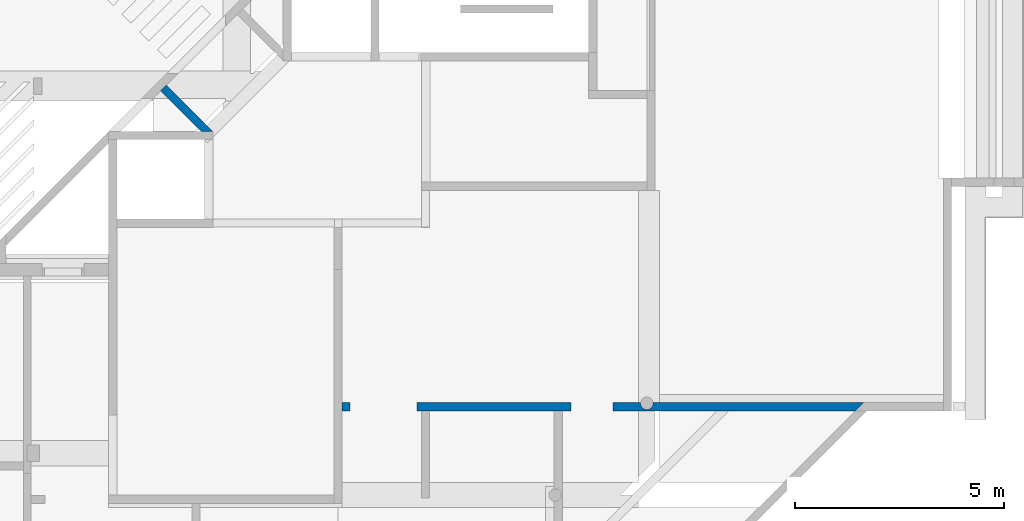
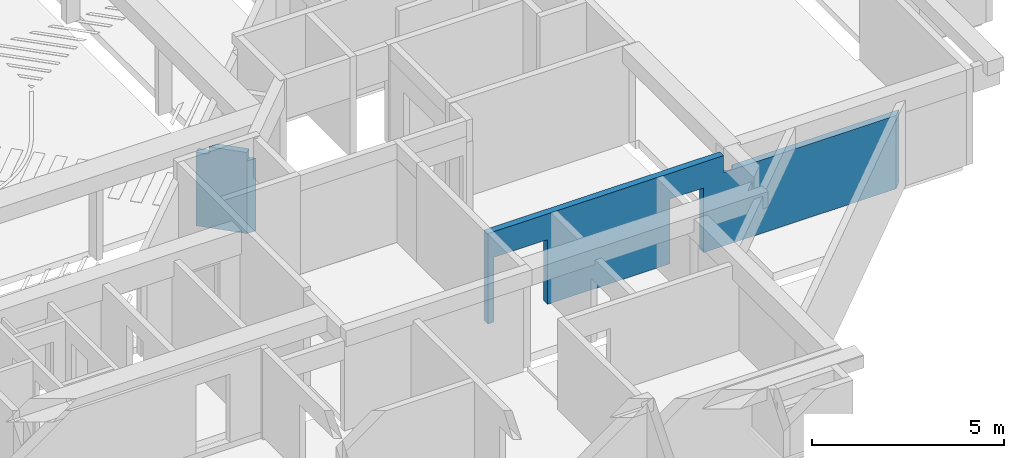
# One storey, part 17 of 22: 2 walls.
"""IFC4X3_ADD2 building model written with IfcOpenShell, lengths in millimetres."""

from ifc_helpers import new_model, si_unit, direction, frame, origin_with_axes, place, context, subcontext, project, spatial, polygons, element, save


model = new_model("IFC4X3_ADD2")

# Units and contexts
model_context = context("Model", 3, precision=1e-05, world=origin_with_axes(), true_north=direction((0.0, 1.0)))
body_context = subcontext(model_context, "Body", "Model", "MODEL_VIEW")
ifc_project = project(units=[si_unit("LENGTHUNIT", "METRE", prefix="MILLI"), si_unit("AREAUNIT", "SQUARE_METRE"), si_unit("VOLUMEUNIT", "CUBIC_METRE"), si_unit("PLANEANGLEUNIT", "RADIAN"), si_unit("TIMEUNIT", "SECOND"), si_unit("MASSUNIT", "GRAM")], contexts=[model_context])

# Site, building, storey
site_placement = place(None, origin_with_axes())
site = spatial("IfcSite", under=ifc_project, at=site_placement, Name="Site", CompositionType="ELEMENT")
building_placement = place(site_placement, origin_with_axes())
building = spatial("IfcBuilding", under=site, at=building_placement, Name="IFC Building Story")
storey_placement = place(building_placement, frame((0.0, 0.0, -3240.0), z_axis=(0.0, 0.0, 1.0), x_axis=(1.0, 0.0, 0.0)))
storey = spatial("IfcBuildingStorey", under=building, at=storey_placement, Name="K10", Elevation=-3240.0)

# Walls
wall_1_placement = place(storey_placement, frame((0.0, 0.0, 3240.0), z_axis=(0.0, 0.0, 1.0), x_axis=(1.0, 0.0, 0.0)))
element("IfcWall", 1, at=wall_1_placement, inside=storey, Name="Basic Wall:BB_XX_Wand uit metselwerk, 200 mm", ObjectType="Basic Wall:BB_XX_Wand uit metselwerk, 200 mm", PredefinedType="SOLIDWALL", context=body_context, shape_type="Tessellation", body=[
    polygons([(-7349.23971440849, 9415.0, -2705.444408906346), (-7349.80106842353, 9407.639330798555, -2677.619021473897), (-7349.78030801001, 9408.032019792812, -2735.836305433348), (-7349.9999999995, 9399.916643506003, -1606.02772722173), (-7349.81996925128, 9407.263534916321, -1667.8169877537), (-7349.76764691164, 9408.262417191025, -1607.43792381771), (-7349.9999999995, 9399.916643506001, -3093.750030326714), (-7349.87719205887, 9405.985193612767, -3050.800668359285), (-7349.9999999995, 9399.916643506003, -3020.624802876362), (-7349.9999999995, 9399.916643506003, -1006.91112728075), (-7349.81243815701, 9407.415534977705, -1046.75972240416), (-7349.82764306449, 9407.10534113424, -980.1833838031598), (-7349.9999999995, 9399.916643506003, -2216.24972705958), (-7349.84006013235, 9406.841697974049, -2179.68749938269), (-7349.9999999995, 9399.916643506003, -2143.12449960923), (-7349.82102118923, 9407.242052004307, -2381.393021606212), (-7349.23971440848, 9414.999999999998, -2384.710780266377), (-7349.81566438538, 9407.350801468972, -2325.93749950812), (-7349.80980802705, 9407.467896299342, -3159.816615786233), (-7349.23971440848, 9415.0, -3133.089247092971), (-7349.77717105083, 9408.089710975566, -3101.311619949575), (-7349.80477956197, 9407.567004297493, -1102.39420878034), (-7349.23971440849, 9415.000000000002, -1178.38304298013), (-7349.23971440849, 9415.0, -1085.5888475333), (-7349.23971440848, 9414.999999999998, -2438.166385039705), (-7349.23971440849, 9415.0, -1363.97234715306), (-7349.23971440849, 9415.0, -1317.57502110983), (-7349.79758044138, 9407.706694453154, -1340.77344968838), (-7349.23971440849, 9414.999999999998, -1827.94423766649), (-7349.23971440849, 9415.000000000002, -1781.54736826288), (-7349.79758044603, 9407.706694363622, -1804.74550230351), (-7349.82893643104, 9407.078333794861, -1725.19887758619), (-7349.23971440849, 9415.000000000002, -1735.15004221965), (-7349.23971440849, 9415.000000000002, -2758.900013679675), (-7349.80722219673, 9407.519023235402, -2068.85381557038), (-7349.81402689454, 9407.383727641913, -2122.97429932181), (-7349.23971440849, 9415.0, -2106.32773728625), (-7349.79063750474, 9407.839074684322, -1954.00698598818), (-7349.9999999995, 9399.916643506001, -1977.20535135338), (-7349.84991202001, 9406.625135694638, -2013.13526562), (-7349.9999999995, 9399.916643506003, -1513.23332118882), (-7349.84991201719, 9406.625135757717, -1549.16321263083), (-7349.7906375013, 9407.83907474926, -1490.03493304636), (-7349.23971440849, 9415.0, -992.7946520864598), (-7349.23971440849, 9415.0, -900.0), (-7349.9999999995, 9399.916643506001, -2362.499696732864), (-7349.23971440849, 9415.0, -2013.53308519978), (-7349.23971440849, 9415.0, -1920.73843311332), (-7349.23971440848, 9415.0, -1549.56073804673), (-7349.23971440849, 9415.000000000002, -1456.76654259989), (-7349.9999999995, 9399.916643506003, -1327.644509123), (-7349.9999999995, 9399.916643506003, -1420.43891515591), (-7349.9999999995, 9399.916643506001, -1466.83587555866), (-7349.76971913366, 9408.225147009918, -1402.47818537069), (-7349.9999999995, 9399.916643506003, -1791.61653928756), (-7349.9999999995, 9399.916643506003, -1884.41094532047), (-7349.9999999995, 9399.916643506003, -1930.80839095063), (-7349.76971913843, 9408.225146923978, -1866.45023809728), (-7349.23971440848, 9414.999999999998, -2291.916128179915), (-7349.76506537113, 9408.30861551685, -2245.285222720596), (-7349.80980802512, 9407.467896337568, -3240.0), (-7349.23971440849, 9415.0, -3240.0), (-7349.23971440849, 9415.0, -3186.544395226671), (-7349.23971440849, 9414.999999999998, -2598.53319935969), (-7349.7814917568, 9408.010142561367, -2524.435374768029), (-7349.83950130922, 9406.853778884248, -2618.437499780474), (-7349.83179690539, 9407.01823740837, -2837.812499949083), (-7349.9999999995, 9399.916643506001, -2874.374833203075), (-7349.80726194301, 9407.518239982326, -2895.961788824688), (-7349.7495641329, 9408.58082505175, -2947.645275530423), (-7349.80095489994, 9407.641532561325, -2999.449847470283), (-7349.23971440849, 9415.000000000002, -2972.722432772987), (-7349.9999999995, 9399.916643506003, -3186.544436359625), (-7349.9999999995, 9399.916643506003, -3240.0), (-7349.80980802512, 9407.467896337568, -900.0), (-7349.9999999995, 9399.916643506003, -900.0), (-7349.9999999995, 9399.916643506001, -953.4555636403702), (-7349.9999999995, 9399.916643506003, -1167.27781820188), (-7349.9999999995, 9399.916643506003, -1220.73338184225), (-7349.82496931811, 9407.160852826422, -1194.00574120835), (-7349.9999999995, 9399.916643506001, -1060.36669092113), (-7349.23971440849, 9414.999999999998, -3079.633642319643), (-7349.23971440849, 9415.0, -3026.178037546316), (-7349.9999999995, 9399.916643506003, -2801.249605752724), (-7349.9999999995, 9399.916643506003, -2947.49957542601), (-7349.9999999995, 9399.916643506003, -2654.999636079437), (-7349.83565662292, 9406.936330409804, -1254.02584418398), (-7349.23971440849, 9415.0, -1271.17769506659), (-7349.9999999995, 9399.916643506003, -1113.8222545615), (-7349.9999999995, 9399.916643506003, -1274.18894548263), (-7349.23971440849, 9414.999999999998, -1642.35539013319), (-7349.9999999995, 9399.916643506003, -2069.99975738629), (-7349.9999999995, 9399.916643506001, -1698.82213325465), (-7349.9999999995, 9399.916643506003, -1755.28902748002), (-7349.23971440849, 9415.000000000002, -2199.12193273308), (-7349.9999999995, 9399.916643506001, -2289.37495450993), (-7349.23971440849, 9415.0, -2059.93041124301), (-7349.9999999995, 9399.916643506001, -2435.624438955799), (-7349.81446159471, 9407.375001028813, -2464.893952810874), (-7349.23971440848, 9414.999999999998, -2491.621989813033), (-7349.9999999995, 9399.916643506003, -2508.749666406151), (-7349.9999999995, 9399.916643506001, -2384.710972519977), (-7349.23971440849, 9415.0, -2545.077594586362), (-7349.9999999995, 9399.916643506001, -2581.874893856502), (-7349.23971440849, 9415.0, -2651.988804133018), (-7349.9999999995, 9399.916643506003, -2728.124378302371), (-7349.74550936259, 9408.650624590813, -2787.392437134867), (-7349.23971440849, 9414.999999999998, -2812.355618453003), (-7349.23971440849, 9415.0, -2865.811223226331), (-7349.23971440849, 9415.0, -2919.266827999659), (-9014.99999999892, 9215.0, -3240.0), (-12702.46970198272, 9215.0, -3240.0), (-12702.46970198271, 9415.0, -3240.0), (-9014.99999999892, 9415.0, -3240.0), (-8004.99999999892, 9215.0, -3240.0), (-8004.99999999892, 9415.0, -3240.0), (-7344.88887394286, 9361.093786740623, -3240.0), (-7329.90381056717, 9324.916643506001, -3240.0), (-7306.06601717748, 9293.85062632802, -3240.0), (-7274.9999999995, 9270.012832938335, -3240.0), (-7238.82285676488, 9255.027769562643, -3240.0), (-7199.9999999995, 9249.916643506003, -3240.0), (-7161.17714323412, 9255.027769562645, -3240.0), (-7124.9999999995, 9270.012832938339, -3240.0), (-7093.93398282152, 9293.850626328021, -3240.0), (-7070.09618943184, 9324.916643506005, -3240.0), (-7055.11112605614, 9361.093786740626, -3240.0), (-7049.9999999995, 9399.916643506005, -3240.0), (-7050.19019197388, 9407.46789633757, -3240.0), (-7050.76028559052, 9415.0, -3240.0), (-2008.8311754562, 9415.0, -3240.0), (-2208.8311754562, 9215.0, -3240.0), (-14312.46970198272, 9215.0, -3240.0), (-14500.0, 9215.0, -3240.0), (-14500.0, 9415.0, -3240.0), (-14312.46970198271, 9415.0, -3240.0), (-14312.46970198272, 9215.0, -1180.0), (-14312.46970198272, 9415.0, -1180.0), (-12702.46970198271, 9415.0, -1180.0), (-12702.46970198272, 9215.0, -1180.0), (-8004.99999999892, 9415.0, -1180.0), (-8004.99999999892, 9215.0, -1180.0), (-9014.99999999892, 9215.0, -1180.0), (-9014.99999999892, 9415.0, -1180.0), (-14500.0, 9415.0, -360.0), (-7399.99999999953, 9415.0, -360.0), (-7399.99999999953, 9415.0, -900.0), (-2008.8311754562, 9415.0, -900.0), (-7050.76028559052, 9415.000000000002, -3186.544425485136), (-7050.76028559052, 9415.000000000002, -3093.749984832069), (-7050.76028559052, 9415.000000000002, -3020.624977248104), (-7050.76028559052, 9415.000000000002, -2947.499969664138), (-7050.76028559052, 9415.000000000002, -2874.374962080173), (-7050.76028559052, 9415.000000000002, -2801.249954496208), (-7050.76028559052, 9415.000000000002, -2728.124995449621), (-7050.76028559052, 9415.0, -2654.999987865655), (-7050.76028559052, 9415.000000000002, -2581.87498028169), (-7050.76028559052, 9415.000000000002, -2508.750021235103), (-7050.76028559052, 9415.0, -2435.625013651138), (-7050.76028559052, 9415.0, -2362.500006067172), (-7050.76028559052, 9415.000000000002, -2289.374998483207), (-7050.76028559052, 9415.0, -2216.24999089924), (-7050.76028559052, 9415.0, -2143.12498331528), (-7050.76028559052, 9415.0, -2069.99997573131), (-7050.76028559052, 9415.0, -1996.87496814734), (-7050.76028559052, 9415.0, -1923.74996056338), (-7050.76028559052, 9415.0, -1850.62500151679), (-7050.76028559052, 9415.0, -1777.49999393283), (-7050.76028559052, 9415.000000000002, -1704.37498634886), (-7050.76028559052, 9415.0, -1631.25002730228), (-7050.76028559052, 9415.0, -1558.12501971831), (-7050.76028559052, 9414.999999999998, -1485.00001213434), (-7050.76028559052, 9415.0, -1392.20557148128), (-7050.76028559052, 9415.0, -1345.80839969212), (-7050.76028559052, 9415.0, -1299.41117936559), (-7050.76028559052, 9415.0, -1206.6167872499), (-7050.76028559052, 9415.0, -1160.21956692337), (-7050.76028559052, 9415.0, -1113.82234659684), (-7050.76028559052, 9415.000000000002, -1060.36677208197), (-7050.76028559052, 9415.0, -1006.91119756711), (-7050.76028559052, 9415.0, -953.4556230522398), (-7050.76028559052, 9415.0, -900.0), (-2208.8311754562, 9215.0, -900.0), (-7399.99999999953, 9215.0, -900.0), (-7399.99999999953, 9215.0, -360.0), (-14500.0, 9215.0, -360.0), (-7344.88887394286, 9361.093786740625, -900.0), (-7050.19019197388, 9407.46789633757, -900.0), (-7049.9999999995, 9399.916643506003, -900.0), (-7055.11112605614, 9361.093786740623, -900.0), (-7070.09618943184, 9324.916643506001, -900.0), (-7093.93398282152, 9293.85062632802, -900.0), (-7124.9999999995, 9270.012832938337, -900.0), (-7161.17714323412, 9255.027769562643, -900.0), (-7199.9999999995, 9249.916643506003, -900.0), (-7238.82285676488, 9255.027769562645, -900.0), (-7274.9999999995, 9270.012832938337, -900.0), (-7306.06601717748, 9293.850626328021, -900.0), (-7329.90381056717, 9324.916643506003, -900.0), (-7338.58192987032, 9342.514128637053, -2685.157707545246), (-7342.60548147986, 9353.401305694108, -2070.00000018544), (-7319.00300101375, 9308.602429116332, -2069.99999991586), (-7319.0030010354, 9308.602429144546, -2701.368878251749), (-7319.0030010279, 9308.602429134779, -1438.63112165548), (-7299.51893460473, 9287.684822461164, -2069.99999999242), (-7291.31421432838, 9280.91364244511, -1624.10663466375), (-7257.40251483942, 9261.33471362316, -2070.00000003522), (-7257.40251484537, 9261.334713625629, -2701.368878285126), (-7108.68578563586, 9280.913642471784, -1624.10663458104), (-7080.9969989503, 9308.602429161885, -2070.00000002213), (-7117.34978116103, 9274.741001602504, -2069.99999994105), (-7108.68578564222, 9280.913642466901, -2515.893365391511), (-7080.99699895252, 9308.602429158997, -2701.368878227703), (-7291.31421433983, 9280.913642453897, -2515.893365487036), (-7230.07001502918, 9252.961568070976, -2070.00000003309), (-7219.57892882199, 9251.199914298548, -2515.893365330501), (-7347.77133902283, 9374.155599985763, -2731.53551578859), (-7347.77133902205, 9374.15559998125, -1408.46448424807), (-7338.58192986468, 9342.514128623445, -1454.84229273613), (-7057.39451850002, 9353.401305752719, -2069.99999994), (-7049.9999999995, 9399.916643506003, -1755.28942592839), (-7049.9999999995, 9399.916643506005, -1848.08385030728), (-7049.9999999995, 9399.916643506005, -1940.87826028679), (-7049.9999999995, 9399.916643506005, -2033.67267026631), (-7049.9999999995, 9399.916643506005, -2126.46708024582), (-7049.9999999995, 9399.916643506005, -2219.26149022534), (-7049.9999999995, 9399.916643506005, -2312.055900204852), (-7049.9999999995, 9399.916643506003, -2384.710574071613), (-7142.59748513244, 9261.334713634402, -1438.63112178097), (-7257.4025148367, 9261.334713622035, -1438.63112175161), (-7219.57892881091, 9251.199914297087, -1624.10663486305), (-7142.59748513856, 9261.334713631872, -2701.368878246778), (-7180.42107115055, 9251.199914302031, -1486.81960839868), (-7061.41807011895, 9342.514128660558, -1454.84229269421), (-7061.41807012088, 9342.514128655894, -2685.15770721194), (-7080.99699894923, 9308.602429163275, -1438.63112179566), (-7052.22866097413, 9374.15559999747, -2731.535516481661), (-7049.9999999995, 9399.916643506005, -2404.850310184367), (-7049.9999999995, 9399.916643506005, -2497.644720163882), (-7049.9999999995, 9399.916643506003, -2590.439130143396), (-7049.9999999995, 9399.916643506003, -2683.233540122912), (-7049.9999999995, 9399.916643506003, -2729.630745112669), (-7049.9999999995, 9399.916643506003, -2776.027950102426), (-7049.9999999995, 9399.916643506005, -2868.822360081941), (-7049.9999999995, 9399.916643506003, -2961.616770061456), (-7049.9999999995, 9399.916643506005, -3054.41118004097), (-7049.9999999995, 9399.916643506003, -3133.08881995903), (-7049.9999999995, 9399.916643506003, -3186.544409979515), (-7052.22866097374, 9374.15559999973, -1408.46448347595), (-7049.9999999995, 9399.916643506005, -953.45559002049), (-7049.9999999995, 9399.916643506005, -1006.91118004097), (-7049.9999999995, 9399.916643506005, -1060.36677006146), (-7049.9999999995, 9399.916643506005, -1113.82236008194), (-7049.9999999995, 9399.916643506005, -1167.27795010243), (-7049.9999999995, 9399.916643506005, -1220.73354012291), (-7049.9999999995, 9399.916643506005, -1274.1891301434), (-7049.9999999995, 9399.916643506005, -1327.64472016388), (-7049.9999999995, 9399.916643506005, -1381.10031018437), (-7049.9999999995, 9399.916643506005, -1434.55590020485), (-7049.9999999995, 9399.916643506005, -1488.01149022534), (-7049.9999999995, 9399.916643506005, -1541.46708024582), (-7049.9999999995, 9399.916643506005, -1594.92267026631), (-7049.9999999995, 9399.916643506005, -1648.37826028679), (-7049.9999999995, 9399.916643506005, -1701.83385030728), (-7180.42107115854, 9251.19991430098, -2653.18039160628), (-7193.61042419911, 9250.052794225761, -2070.00000024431), (-7142.59748513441, 9261.334713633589, -2070.00000002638), (-7167.60898065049, 9253.455652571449, -2236.09976927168), (-7050.1734727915, 9407.128560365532, -2150.39742240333), (-7050.22286808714, 9408.090428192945, -2201.4338944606), (-7050.20009571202, 9407.661879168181, -2489.81837918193), (-7050.23549446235, 9408.318600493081, -2399.062485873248), (-7050.19019197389, 9407.467896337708, -980.1833835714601), (-7050.1901919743, 9407.467896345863, -1047.59869372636), (-7050.19019197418, 9407.467896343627, -1102.52561341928), (-7050.19019197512, 9407.467896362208, -3159.816616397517), (-7050.20882058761, 9407.828822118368, -2618.437510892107), (-7050.19985459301, 9407.657214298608, -2674.252698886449), (-7050.21299373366, 9407.90743532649, -1255.79320488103), (-7050.17778111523, 9407.217515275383, -1200.09118198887), (-7050.19667824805, 9407.595497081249, -3040.410783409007), (-7050.19613982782, 9407.584986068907, -1814.06248335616), (-7050.20174557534, 9407.69372338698, -1758.60696306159), (-7050.18391750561, 9407.342370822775, -1887.18748203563), (-7050.16383875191, 9406.925550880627, -1615.56462252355), (-7050.22240219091, 9408.081886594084, -1521.56248865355), (-7050.20744084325, 9407.802657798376, -1322.60977478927), (-7050.1642784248, 9406.934943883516, -1403.74305719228), (-7050.1816485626, 9407.296451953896, -1462.38096944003), (-7050.20188896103, 9407.696484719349, -1942.53611498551), (-7050.16786754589, 9407.01115437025, -2545.31251176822), (-7050.17392544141, 9407.13795796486, -2093.75852249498), (-7050.19720331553, 9407.605733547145, -2252.812476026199), (-7050.20166214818, 9407.692116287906, -2308.287366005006), (-7050.17608801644, 9407.182687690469, -2910.937506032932), (-7050.23178332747, 9408.252186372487, -2861.726564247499), (-7050.21858947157, 9408.011645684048, -2984.062504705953), (-7050.16013651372, 9406.84595159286, -3101.311622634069), (-7050.19490311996, 9407.56078825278, -1675.10604116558), (-7050.19257285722, 9407.514983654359, -2752.829356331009), (-7050.15154410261, 9406.657583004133, -2813.242329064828), (-7050.23672037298, 9408.340423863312, -2033.43747948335), (-7050.14233948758, 9406.449758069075, -1151.19211064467)], [[[1, 2, 3]], [[4, 5, 6]], [[7, 8, 9]], [[10, 11, 12]], [[13, 14, 15]], [[16, 17, 18]], [[19, 20, 21]], [[22, 23, 24]], [[25, 17, 16]], [[26, 27, 28]], [[29, 30, 31]], [[5, 32, 33]], [[34, 1, 3]], [[35, 36, 37]], [[38, 39, 40]], [[41, 42, 43]], [[12, 44, 45]], [[18, 46, 16]], [[42, 4, 6]], [[38, 47, 48]], [[43, 49, 50]], [[51, 52, 53, 54]], [[55, 56, 57, 58]], [[59, 60, 18]], [[63, 20, 19]], [[19, 61, 62]], [[19, 62, 63]], [[60, 14, 13]], [[24, 11, 22]], [[64, 65, 66]], [[67, 68, 69]], [[70, 71, 72]], [[73, 74, 61]], [[73, 61, 19]], [[19, 7, 73]], [[75, 76, 77]], [[10, 12, 77]], [[11, 44, 12]], [[12, 45, 75]], [[7, 19, 21]], [[77, 12, 75]], [[24, 44, 11]], [[78, 79, 80]], [[11, 81, 22]], [[8, 71, 9]], [[21, 82, 8]], [[8, 82, 83]], [[67, 84, 68]], [[85, 70, 69]], [[38, 48, 58]], [[54, 43, 50]], [[21, 20, 82]], [[72, 71, 83]], [[9, 71, 85]], [[86, 2, 66]], [[80, 79, 87]], [[71, 8, 83]], [[21, 8, 7]], [[88, 80, 87]], [[42, 6, 49]], [[89, 78, 22, 81]], [[23, 22, 80]], [[78, 80, 22]], [[23, 80, 88]], [[88, 87, 27]], [[87, 90, 28]], [[87, 28, 27]], [[54, 28, 51]], [[31, 55, 58]], [[54, 26, 28]], [[58, 29, 31]], [[54, 50, 26]], [[58, 48, 29]], [[43, 54, 53]], [[38, 58, 57]], [[41, 43, 53]], [[39, 38, 57]], [[49, 43, 42]], [[47, 38, 40]], [[91, 49, 6]], [[42, 41, 4]], [[40, 39, 92]], [[51, 28, 90]], [[87, 79, 90]], [[11, 10, 81]], [[5, 91, 6]], [[91, 5, 33]], [[93, 5, 4]], [[30, 33, 32]], [[93, 32, 5]], [[32, 93, 94, 55]], [[32, 31, 30]], [[55, 31, 32]], [[14, 95, 36]], [[92, 36, 35]], [[36, 15, 14]], [[37, 36, 95]], [[95, 14, 60]], [[60, 59, 95]], [[36, 92, 15]], [[46, 18, 96]], [[60, 13, 96]], [[97, 47, 40]], [[97, 40, 35]], [[96, 18, 60]], [[59, 18, 17]], [[16, 98, 99]], [[25, 99, 100]], [[100, 99, 65]], [[65, 99, 101]], [[16, 46, 102, 98]], [[16, 99, 25]], [[99, 98, 101]], [[103, 100, 65, 64]], [[104, 66, 65]], [[86, 66, 104]], [[65, 101, 104]], [[2, 105, 66]], [[69, 68, 85]], [[106, 107, 3]], [[2, 106, 3]], [[2, 86, 106]], [[67, 108, 107]], [[64, 66, 105]], [[108, 34, 107]], [[2, 1, 105]], [[107, 106, 84]], [[69, 109, 67]], [[71, 70, 85]], [[110, 70, 72]], [[108, 67, 109]], [[69, 110, 109]], [[69, 70, 110]], [[67, 107, 84]], [[3, 107, 34]], [[92, 35, 40]], [[97, 35, 37]], [[111, 112, 113, 114]], [[129, 130, 131]], [[131, 132, 128]], [[131, 128, 129]], [[132, 127, 128]], [[132, 126, 127]], [[132, 125, 126]], [[132, 124, 125]], [[132, 123, 124]], [[132, 122, 123]], [[132, 115, 122]], [[115, 121, 122]], [[115, 120, 121]], [[115, 119, 120]], [[115, 118, 119]], [[115, 117, 118]], [[115, 116, 74]], [[115, 74, 117]], [[116, 61, 74]], [[116, 62, 61]], [[133, 134, 135, 136]], [[137, 138, 139, 140]], [[141, 142, 143, 144]], [[138, 136, 135]], [[138, 135, 145]], [[145, 139, 138]], [[139, 145, 144]], [[144, 114, 113]], [[144, 113, 139]], [[145, 146, 144]], [[146, 141, 144]], [[63, 62, 147]], [[147, 20, 63]], [[147, 82, 20]], [[147, 83, 82]], [[147, 72, 83]], [[147, 110, 72]], [[147, 109, 110]], [[147, 108, 109]], [[147, 34, 108]], [[147, 1, 34]], [[147, 105, 1]], [[147, 64, 105]], [[147, 103, 64]], [[147, 100, 103]], [[147, 25, 100]], [[147, 17, 25]], [[147, 59, 17]], [[147, 95, 59]], [[147, 37, 95]], [[147, 97, 37]], [[147, 47, 97]], [[147, 48, 47]], [[147, 29, 48]], [[147, 30, 29]], [[147, 33, 30]], [[147, 91, 33]], [[147, 49, 91]], [[147, 50, 49]], [[147, 26, 50]], [[147, 27, 26]], [[147, 88, 27]], [[147, 23, 88]], [[147, 24, 23]], [[147, 44, 24]], [[147, 45, 44]], [[147, 62, 116]], [[147, 116, 141]], [[141, 146, 147]], [[181, 182, 148]], [[148, 180, 181]], [[148, 179, 180]], [[148, 178, 179]], [[148, 177, 178]], [[148, 176, 177]], [[148, 175, 176]], [[148, 174, 175]], [[148, 173, 174]], [[148, 172, 173]], [[148, 171, 172]], [[148, 170, 171]], [[148, 169, 170]], [[148, 168, 169]], [[148, 167, 168]], [[148, 166, 167]], [[148, 165, 166]], [[148, 164, 165]], [[148, 131, 163]], [[148, 163, 164]], [[131, 162, 163]], [[131, 161, 162]], [[131, 160, 161]], [[131, 159, 160]], [[131, 158, 159]], [[131, 157, 158]], [[131, 156, 157]], [[131, 155, 156]], [[131, 154, 155]], [[131, 153, 154]], [[131, 152, 153]], [[131, 151, 152]], [[131, 150, 151]], [[131, 149, 150]], [[131, 130, 149]], [[184, 185, 142]], [[142, 115, 132]], [[142, 132, 183]], [[142, 183, 184]], [[185, 143, 142]], [[143, 185, 140]], [[140, 112, 111]], [[140, 111, 143]], [[185, 186, 140]], [[186, 137, 140]], [[186, 134, 133]], [[186, 133, 137]], [[186, 185, 146, 145]], [[75, 45, 147]], [[147, 76, 75]], [[147, 187, 76]], [[199, 187, 147]], [[199, 147, 184]], [[184, 198, 199]], [[184, 197, 198]], [[184, 196, 197]], [[184, 195, 196]], [[184, 194, 195]], [[194, 184, 183]], [[183, 193, 194]], [[183, 192, 193]], [[183, 191, 192]], [[183, 190, 191]], [[183, 148, 189]], [[183, 189, 190]], [[148, 188, 189]], [[148, 182, 188]], [[134, 186, 145, 135]], [[112, 140, 139, 113]], [[141, 116, 115, 142]], [[133, 136, 138, 137]], [[114, 144, 143, 111]], [[184, 147, 146, 185]], [[132, 131, 148, 183]], [[200, 201, 202]], [[203, 202, 204, 205]], [[206, 207, 205]], [[199, 198, 204]], [[208, 121, 120]], [[209, 210, 211]], [[125, 212, 213]], [[203, 205, 214]], [[120, 214, 208]], [[208, 215, 216]], [[200, 118, 117]], [[74, 217, 117]], [[55, 94, 201]], [[201, 56, 55]], [[201, 57, 56]], [[201, 39, 57]], [[201, 92, 39]], [[201, 15, 92]], [[201, 13, 15]], [[201, 96, 13]], [[201, 46, 96]], [[201, 102, 46]], [[203, 119, 118]], [[125, 124, 212]], [[218, 219, 201]], [[227, 228, 220]], [[220, 226, 227]], [[220, 225, 226]], [[220, 224, 225]], [[220, 223, 224]], [[220, 222, 223]], [[220, 221, 222]], [[122, 121, 216]], [[197, 206, 198]], [[229, 194, 193]], [[204, 198, 206]], [[230, 197, 196]], [[196, 231, 230]], [[207, 206, 230]], [[207, 208, 214]], [[232, 124, 123]], [[207, 230, 215, 208]], [[233, 195, 194]], [[213, 126, 125]], [[234, 220, 210]], [[210, 235, 213]], [[210, 236, 234]], [[248, 128, 237]], [[237, 247, 248]], [[237, 246, 247]], [[237, 245, 246]], [[237, 244, 245]], [[237, 243, 244]], [[237, 242, 243]], [[237, 241, 242]], [[237, 240, 241]], [[237, 239, 240]], [[237, 238, 239]], [[237, 228, 238]], [[263, 264, 221]], [[262, 263, 221]], [[262, 221, 249]], [[249, 261, 262]], [[249, 260, 261]], [[249, 259, 260]], [[249, 258, 259]], [[249, 257, 258]], [[249, 256, 257]], [[249, 255, 256]], [[249, 254, 255]], [[249, 253, 254]], [[249, 252, 253]], [[249, 251, 252]], [[249, 250, 251]], [[249, 189, 250]], [[190, 249, 234]], [[123, 122, 265]], [[189, 249, 190]], [[231, 196, 195]], [[195, 233, 231]], [[126, 235, 127]], [[214, 120, 119]], [[77, 76, 218]], [[218, 10, 77]], [[218, 81, 10]], [[218, 89, 81]], [[218, 78, 89]], [[218, 79, 78]], [[218, 90, 79]], [[218, 51, 90]], [[218, 52, 51]], [[218, 53, 52]], [[218, 41, 53]], [[218, 4, 41]], [[218, 93, 4]], [[218, 94, 93]], [[98, 102, 217]], [[217, 101, 98]], [[217, 104, 101]], [[217, 86, 104]], [[217, 106, 86]], [[217, 84, 106]], [[217, 68, 84]], [[217, 85, 68]], [[217, 9, 85]], [[217, 7, 9]], [[217, 73, 7]], [[217, 74, 73]], [[209, 236, 210]], [[210, 213, 212]], [[202, 219, 204]], [[202, 203, 200]], [[232, 211, 212]], [[193, 192, 209]], [[117, 217, 200]], [[187, 199, 219]], [[236, 192, 191]], [[220, 237, 235]], [[216, 265, 122]], [[266, 265, 216]], [[191, 190, 234]], [[193, 209, 229]], [[232, 267, 229, 211]], [[123, 265, 232]], [[268, 266, 233]], [[266, 215, 231]], [[267, 233, 229]], [[203, 118, 200]], [[102, 201, 217]], [[187, 219, 218]], [[201, 219, 202]], [[236, 191, 234]], [[221, 220, 249]], [[127, 235, 237]], [[220, 235, 210]], [[121, 208, 216]], [[197, 230, 206]], [[124, 232, 212]], [[268, 267, 232]], [[194, 229, 233]], [[199, 204, 219]], [[119, 203, 214]], [[126, 213, 235]], [[192, 236, 209]], [[265, 266, 268]], [[266, 231, 233]], [[200, 217, 201]], [[187, 218, 76]], [[94, 218, 201]], [[234, 249, 220]], [[127, 237, 128]], [[228, 237, 220]], [[216, 215, 266]], [[231, 215, 230]], [[214, 205, 207]], [[206, 205, 204]], [[212, 211, 210]], [[209, 211, 229]], [[265, 268, 232]], [[267, 268, 233]], [[269, 163, 270]], [[271, 272, 159]], [[274, 275, 253]], [[274, 253, 252]], [[251, 250, 273]], [[273, 274, 252]], [[273, 252, 251]], [[250, 189, 188]], [[250, 188, 273]], [[248, 247, 276]], [[276, 129, 128]], [[276, 128, 248]], [[277, 156, 278]], [[279, 255, 280]], [[151, 150, 281]], [[179, 178, 275]], [[179, 275, 274]], [[274, 273, 180]], [[274, 180, 179]], [[273, 181, 180]], [[273, 188, 182]], [[273, 182, 181]], [[149, 130, 129]], [[149, 129, 276]], [[276, 150, 149]], [[282, 221, 283]], [[284, 167, 166]], [[285, 286, 171]], [[287, 256, 279]], [[288, 289, 259]], [[223, 290, 224]], [[239, 271, 291]], [[158, 157, 291]], [[157, 156, 277]], [[264, 283, 221]], [[282, 222, 221]], [[155, 278, 156]], [[292, 163, 269]], [[293, 294, 227]], [[277, 240, 291]], [[284, 166, 290]], [[295, 244, 296]], [[151, 297, 152]], [[153, 296, 154]], [[298, 276, 247]], [[150, 276, 298]], [[256, 287, 258, 257]], [[160, 159, 272]], [[295, 245, 244]], [[298, 247, 246]], [[281, 297, 151]], [[167, 284, 282]], [[281, 246, 297]], [[167, 282, 168]], [[284, 223, 222]], [[223, 284, 290]], [[289, 288, 173]], [[260, 289, 286]], [[278, 241, 277]], [[158, 291, 271]], [[291, 240, 239]], [[283, 168, 282]], [[222, 282, 284]], [[264, 263, 299]], [[299, 263, 285]], [[169, 168, 283]], [[283, 264, 299]], [[169, 283, 299]], [[299, 170, 169]], [[170, 299, 285]], [[286, 172, 171]], [[262, 261, 285, 263]], [[171, 170, 285]], [[157, 277, 291]], [[240, 277, 241]], [[243, 300, 301]], [[242, 241, 278]], [[242, 300, 243]], [[301, 300, 154]], [[278, 155, 300]], [[278, 300, 242]], [[300, 155, 154]], [[301, 244, 243]], [[295, 153, 152]], [[296, 153, 295]], [[296, 301, 154]], [[245, 295, 297]], [[152, 297, 295]], [[245, 297, 246]], [[281, 298, 246]], [[298, 281, 150]], [[289, 172, 286]], [[224, 290, 302]], [[164, 302, 165]], [[292, 302, 164]], [[290, 166, 165]], [[261, 286, 285]], [[287, 175, 174]], [[172, 289, 173]], [[286, 261, 260]], [[174, 173, 288]], [[288, 258, 287]], [[279, 175, 287]], [[288, 287, 174]], [[303, 275, 178]], [[279, 176, 175]], [[176, 279, 280]], [[260, 259, 289]], [[288, 259, 258]], [[177, 176, 280]], [[303, 178, 177]], [[280, 255, 254]], [[159, 158, 271]], [[294, 272, 227]], [[271, 239, 238]], [[165, 302, 290]], [[225, 224, 292]], [[302, 292, 224]], [[269, 226, 225]], [[269, 225, 292]], [[292, 164, 163]], [[293, 161, 294]], [[161, 293, 162]], [[270, 293, 226]], [[162, 293, 270]], [[226, 293, 227]], [[272, 238, 228, 227]], [[294, 161, 160]], [[160, 272, 294]], [[238, 272, 271]], [[256, 255, 279]], [[162, 270, 163]], [[269, 270, 226]], [[254, 303, 280]], [[303, 254, 253]], [[280, 303, 177]], [[275, 303, 253]], [[301, 296, 244]]]),
])
wall_2_placement = place(storey_placement, frame((0.0, 0.0, 3240.0), z_axis=(0.0, 0.0, 1.0), x_axis=(1.0, 0.0, 0.0)))
element("IfcWall", 2, at=wall_2_placement, inside=storey, Name="Basic Wall:BB_03.09.24#05_Wand uit metselwerk_EI60, 190 mm", ObjectType="Basic Wall:BB_03.09.24#05_Wand uit metselwerk_EI60, 190 mm", PredefinedType="SOLIDWALL", context=body_context, shape_type="Tessellation", body=[
    polygons([(-17611.65132797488, 15914.99999999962, -3240.0), (-18719.85043644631, 17023.19910847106, -3240.0), (-18719.85043644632, 17023.19910847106, -900.0), (-18336.6513279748, 16639.99999999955, -900.0), (-18336.6513279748, 16639.99999999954, -660.0), (-17747.24702022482, 16050.59569224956, -660.0), (-17747.24702022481, 16050.59569224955, -930.0), (-17611.65132797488, 15914.99999999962, -930.0), (-18854.20072487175, 16888.84882004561, -3240.0), (-17880.35190482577, 15914.99999999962, -3240.0), (-17880.35190482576, 15914.99999999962, -930.0), (-17881.59730865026, 15916.24540382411, -930.0), (-17881.59730865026, 15916.24540382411, -660.0), (-18605.35190482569, 16639.99999999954, -660.0), (-18605.35190482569, 16639.99999999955, -900.0), (-18854.20072487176, 16888.84882004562, -900.0)], [[[7, 8, 1]], [[1, 4, 7]], [[4, 5, 6]], [[4, 6, 7]], [[1, 2, 3]], [[1, 3, 4]], [[15, 16, 12]], [[12, 13, 14]], [[12, 14, 15]], [[16, 9, 10]], [[16, 10, 12]], [[10, 11, 12]], [[1, 8, 11, 10]], [[2, 1, 10, 9]], [[2, 9, 16, 3]], [[13, 6, 5, 14]], [[7, 6, 13, 12]], [[8, 7, 12, 11]], [[4, 15, 14, 5]], [[15, 4, 3, 16]]]),
])

save(model, "model.ifc")
